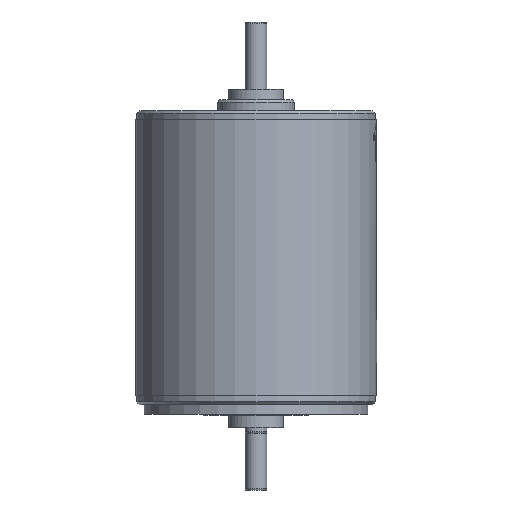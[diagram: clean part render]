
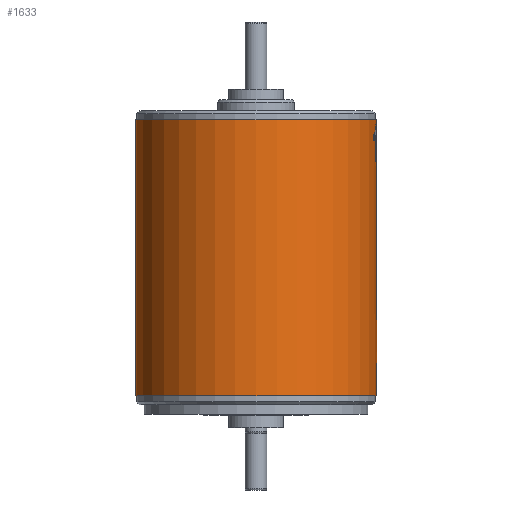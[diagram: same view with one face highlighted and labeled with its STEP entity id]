
A CAD part, left-side view. The second image highlights one B-rep face of the part: STEP entity #1633.
In plain terms, the highlighted cylindrical face has radius 11 mm (diameter 22 mm), a full revolution.
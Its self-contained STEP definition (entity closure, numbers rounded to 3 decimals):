
#1283=CYLINDRICAL_SURFACE('',#5099,11.);
#1330=FACE_BOUND('',#2248,.T.);
#1331=FACE_BOUND('',#2249,.T.);
#1332=FACE_BOUND('',#2250,.T.);
#1333=FACE_BOUND('',#2251,.T.);
#1530=CIRCLE('',#5097,11.);
#1531=CIRCLE('',#5098,11.);
#1633=ADVANCED_FACE('',(#1330,#1331,#1332,#1333),#1283,.T.);
#2248=EDGE_LOOP('',(#3054));
#2249=EDGE_LOOP('',(#3055,#3056,#3057,#3058,#3059,#3060,#3061));
#2250=EDGE_LOOP('',(#3062));
#2251=EDGE_LOOP('',(#3063));
#3054=ORIENTED_EDGE('',*,*,#4390,.F.);
#3055=ORIENTED_EDGE('',*,*,#4388,.F.);
#3056=ORIENTED_EDGE('',*,*,#4385,.F.);
#3057=ORIENTED_EDGE('',*,*,#4382,.F.);
#3058=ORIENTED_EDGE('',*,*,#4379,.F.);
#3059=ORIENTED_EDGE('',*,*,#4376,.F.);
#3060=ORIENTED_EDGE('',*,*,#4373,.F.);
#3061=ORIENTED_EDGE('',*,*,#4369,.F.);
#3062=ORIENTED_EDGE('',*,*,#4394,.T.);
#3063=ORIENTED_EDGE('',*,*,#4395,.T.);
#4007=VERTEX_POINT('',#6289);
#4008=VERTEX_POINT('',#6290);
#4011=VERTEX_POINT('',#6302);
#4013=VERTEX_POINT('',#6311);
#4015=VERTEX_POINT('',#6320);
#4017=VERTEX_POINT('',#6336);
#4019=VERTEX_POINT('',#6405);
#4021=VERTEX_POINT('',#6487);
#4025=VERTEX_POINT('',#6933);
#4026=VERTEX_POINT('',#6935);
#4369=EDGE_CURVE('',#4007,#4008,#4866,.T.);
#4373=EDGE_CURVE('',#4008,#4011,#4868,.T.);
#4376=EDGE_CURVE('',#4011,#4013,#4869,.T.);
#4379=EDGE_CURVE('',#4013,#4015,#4870,.T.);
#4382=EDGE_CURVE('',#4015,#4017,#4872,.T.);
#4385=EDGE_CURVE('',#4017,#4019,#4875,.T.);
#4388=EDGE_CURVE('',#4019,#4007,#4877,.T.);
#4390=EDGE_CURVE('',#4021,#4021,#4879,.T.);
#4394=EDGE_CURVE('',#4025,#4025,#1530,.T.);
#4395=EDGE_CURVE('',#4026,#4026,#1531,.T.);
#4866=B_SPLINE_CURVE_WITH_KNOTS('',3,(#6285,#6286,#6287,#6288),
 .UNSPECIFIED.,.F.,.F.,(4,4),(0.,1.),.UNSPECIFIED.);
#4868=B_SPLINE_CURVE_WITH_KNOTS('',3,(#6298,#6299,#6300,#6301),
 .UNSPECIFIED.,.F.,.F.,(4,4),(0.,1.),.UNSPECIFIED.);
#4869=B_SPLINE_CURVE_WITH_KNOTS('',3,(#6307,#6308,#6309,#6310),
 .UNSPECIFIED.,.F.,.F.,(4,4),(0.,1.),.UNSPECIFIED.);
#4870=B_SPLINE_CURVE_WITH_KNOTS('',3,(#6316,#6317,#6318,#6319),
 .UNSPECIFIED.,.F.,.F.,(4,4),(0.,1.),.UNSPECIFIED.);
#4872=B_SPLINE_CURVE_WITH_KNOTS('',3,(#6326,#6327,#6328,#6329,#6330,#6331,
#6332,#6333,#6334,#6335),.UNSPECIFIED.,.F.,.F.,(4,2,2,2,4),(0.,0.25,
0.5,0.75,1.),.UNSPECIFIED.);
#4875=B_SPLINE_CURVE_WITH_KNOTS('',3,(#6401,#6402,#6403,#6404),
 .UNSPECIFIED.,.F.,.F.,(4,4),(0.,1.),.UNSPECIFIED.);
#4877=B_SPLINE_CURVE_WITH_KNOTS('',3,(#6411,#6412,#6413,#6414),
 .UNSPECIFIED.,.F.,.F.,(4,4),(0.,1.),.UNSPECIFIED.);
#4879=B_SPLINE_CURVE_WITH_KNOTS('',3,(#6443,#6444,#6445,#6446,#6447,#6448,
#6449,#6450,#6451,#6452,#6453,#6454,#6455,#6456,#6457,#6458,#6459,#6460,
#6461,#6462,#6463,#6464,#6465,#6466,#6467,#6468,#6469,#6470,#6471,#6472,
#6473,#6474,#6475,#6476,#6477,#6478,#6479,#6480,#6481,#6482,#6483,#6484,
#6485,#6486),.UNSPECIFIED.,.T.,.F.,(1,3,2,2,2,2,2,2,2,2,2,2,2,2,2,2,2,2,
2,2,2,2,3,1),(-0.031,0.,0.031,0.063,0.094,0.125,0.188,0.25,0.313,
0.344,0.375,0.438,0.5,0.563,0.594,0.625,0.75,0.813,0.844,0.875,
0.938,0.969,1.,1.031),.UNSPECIFIED.);
#5097=AXIS2_PLACEMENT_3D('',#6932,#5442,#5443);
#5098=AXIS2_PLACEMENT_3D('',#6934,#5444,#5445);
#5099=AXIS2_PLACEMENT_3D('',#6936,#5446,#5447);
#5442=DIRECTION('',(0.,0.,1.));
#5443=DIRECTION('',(-1.,0.,0.));
#5444=DIRECTION('',(0.,0.,-1.));
#5445=DIRECTION('',(1.,0.,0.));
#5446=DIRECTION('',(0.,0.,-1.));
#5447=DIRECTION('',(-1.,0.,0.));
#6285=CARTESIAN_POINT('',(-1.447,-10.904,-2.216));
#6286=CARTESIAN_POINT('',(-1.447,-10.904,-3.011));
#6287=CARTESIAN_POINT('',(-1.447,-10.904,-3.805));
#6288=CARTESIAN_POINT('',(-1.447,-10.904,-4.6));
#6289=CARTESIAN_POINT('',(-1.447,-10.904,-2.216));
#6290=CARTESIAN_POINT('',(-1.447,-10.904,-4.6));
#6298=CARTESIAN_POINT('',(-1.447,-10.904,-4.6));
#6299=CARTESIAN_POINT('',(-1.238,-10.932,-4.6));
#6300=CARTESIAN_POINT('',(-1.028,-10.954,-4.6));
#6301=CARTESIAN_POINT('',(-0.818,-10.97,-4.6));
#6302=CARTESIAN_POINT('',(-0.818,-10.97,-4.6));
#6307=CARTESIAN_POINT('',(-0.818,-10.97,-4.6));
#6308=CARTESIAN_POINT('',(-0.818,-10.97,-3.495));
#6309=CARTESIAN_POINT('',(-0.818,-10.97,-2.391));
#6310=CARTESIAN_POINT('',(-0.818,-10.97,-1.286));
#6311=CARTESIAN_POINT('',(-0.818,-10.97,-1.286));
#6316=CARTESIAN_POINT('',(-0.818,-10.97,-1.286));
#6317=CARTESIAN_POINT('',(-0.989,-10.957,-1.286));
#6318=CARTESIAN_POINT('',(-1.159,-10.94,-1.286));
#6319=CARTESIAN_POINT('',(-1.328,-10.92,-1.286));
#6320=CARTESIAN_POINT('',(-1.328,-10.92,-1.286));
#6326=CARTESIAN_POINT('',(-1.328,-10.92,-1.286));
#6327=CARTESIAN_POINT('',(-1.364,-10.915,-1.387));
#6328=CARTESIAN_POINT('',(-1.414,-10.909,-1.481));
#6329=CARTESIAN_POINT('',(-1.548,-10.891,-1.658));
#6330=CARTESIAN_POINT('',(-1.634,-10.878,-1.741));
#6331=CARTESIAN_POINT('',(-1.814,-10.85,-1.889));
#6332=CARTESIAN_POINT('',(-1.91,-10.833,-1.953));
#6333=CARTESIAN_POINT('',(-2.088,-10.8,-2.056));
#6334=CARTESIAN_POINT('',(-2.17,-10.784,-2.094));
#6335=CARTESIAN_POINT('',(-2.25,-10.767,-2.121));
#6336=CARTESIAN_POINT('',(-2.25,-10.767,-2.121));
#6401=CARTESIAN_POINT('',(-2.25,-10.767,-2.121));
#6402=CARTESIAN_POINT('',(-2.25,-10.767,-2.313));
#6403=CARTESIAN_POINT('',(-2.25,-10.767,-2.504));
#6404=CARTESIAN_POINT('',(-2.25,-10.767,-2.695));
#6405=CARTESIAN_POINT('',(-2.25,-10.767,-2.695));
#6411=CARTESIAN_POINT('',(-2.25,-10.767,-2.695));
#6412=CARTESIAN_POINT('',(-1.945,-10.831,-2.592));
#6413=CARTESIAN_POINT('',(-1.675,-10.874,-2.432));
#6414=CARTESIAN_POINT('',(-1.447,-10.904,-2.216));
#6443=CARTESIAN_POINT('',(1.935,-10.828,-1.629));
#6444=CARTESIAN_POINT('',(1.885,-10.837,-1.566));
#6445=CARTESIAN_POINT('',(1.821,-10.848,-1.501));
#6446=CARTESIAN_POINT('',(1.683,-10.871,-1.399));
#6447=CARTESIAN_POINT('',(1.609,-10.882,-1.363));
#6448=CARTESIAN_POINT('',(1.447,-10.905,-1.31));
#6449=CARTESIAN_POINT('',(1.357,-10.916,-1.293));
#6450=CARTESIAN_POINT('',(1.17,-10.938,-1.283));
#6451=CARTESIAN_POINT('',(1.072,-10.948,-1.288));
#6452=CARTESIAN_POINT('',(0.802,-10.972,-1.338));
#6453=CARTESIAN_POINT('',(0.655,-10.981,-1.413));
#6454=CARTESIAN_POINT('',(0.412,-10.993,-1.651));
#6455=CARTESIAN_POINT('',(0.316,-10.996,-1.813));
#6456=CARTESIAN_POINT('',(0.181,-10.999,-2.23));
#6457=CARTESIAN_POINT('',(0.143,-10.999,-2.485));
#6458=CARTESIAN_POINT('',(0.126,-10.999,-2.934));
#6459=CARTESIAN_POINT('',(0.128,-10.999,-3.096));
#6460=CARTESIAN_POINT('',(0.143,-10.999,-3.388));
#6461=CARTESIAN_POINT('',(0.156,-10.999,-3.518));
#6462=CARTESIAN_POINT('',(0.216,-10.998,-3.874));
#6463=CARTESIAN_POINT('',(0.28,-10.997,-4.064));
#6464=CARTESIAN_POINT('',(0.455,-10.991,-4.353));
#6465=CARTESIAN_POINT('',(0.565,-10.986,-4.453));
#6466=CARTESIAN_POINT('',(0.813,-10.971,-4.597));
#6467=CARTESIAN_POINT('',(0.951,-10.96,-4.641));
#6468=CARTESIAN_POINT('',(1.182,-10.937,-4.659));
#6469=CARTESIAN_POINT('',(1.263,-10.928,-4.657));
#6470=CARTESIAN_POINT('',(1.413,-10.909,-4.639));
#6471=CARTESIAN_POINT('',(1.482,-10.9,-4.624));
#6472=CARTESIAN_POINT('',(1.807,-10.854,-4.509));
#6473=CARTESIAN_POINT('',(1.997,-10.818,-4.303));
#6474=CARTESIAN_POINT('',(2.17,-10.784,-3.815));
#6475=CARTESIAN_POINT('',(2.209,-10.776,-3.623));
#6476=CARTESIAN_POINT('',(2.241,-10.769,-3.285));
#6477=CARTESIAN_POINT('',(2.247,-10.768,-3.165));
#6478=CARTESIAN_POINT('',(2.25,-10.767,-2.915));
#6479=CARTESIAN_POINT('',(2.247,-10.768,-2.786));
#6480=CARTESIAN_POINT('',(2.225,-10.773,-2.429));
#6481=CARTESIAN_POINT('',(2.194,-10.779,-2.23));
#6482=CARTESIAN_POINT('',(2.116,-10.795,-1.969));
#6483=CARTESIAN_POINT('',(2.085,-10.801,-1.889));
#6484=CARTESIAN_POINT('',(2.019,-10.813,-1.75));
#6485=CARTESIAN_POINT('',(1.985,-10.82,-1.691));
#6486=CARTESIAN_POINT('',(1.935,-10.828,-1.629));
#6487=CARTESIAN_POINT('',(1.935,-10.828,-1.629));
#6932=CARTESIAN_POINT('',(0.,0.,-26.));
#6933=CARTESIAN_POINT('',(-11.,0.,-26.));
#6934=CARTESIAN_POINT('',(0.,0.,-0.8));
#6935=CARTESIAN_POINT('',(11.,0.,-0.8));
#6936=CARTESIAN_POINT('',(0.,0.,0.));
